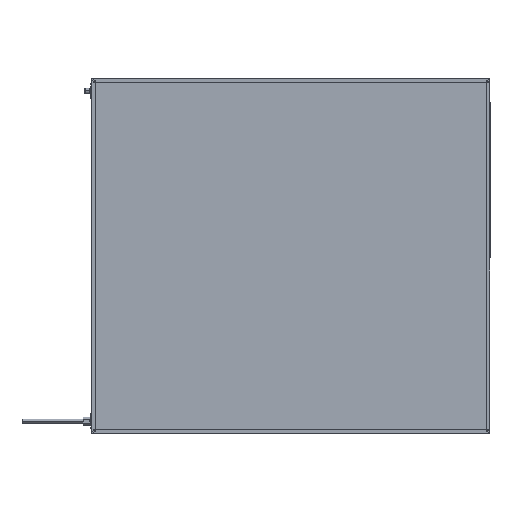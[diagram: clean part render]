
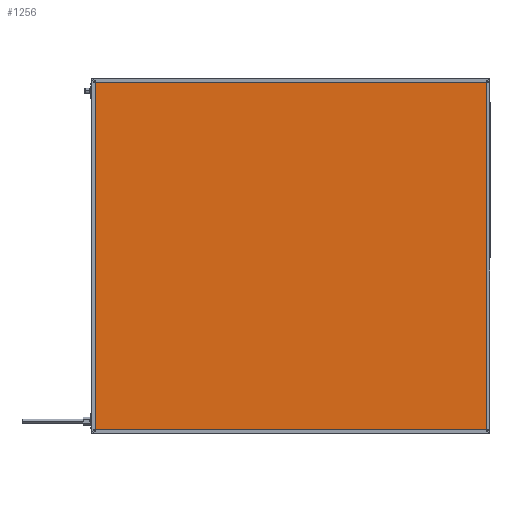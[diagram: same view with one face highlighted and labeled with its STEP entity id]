
A CAD part, top view. The second image highlights one B-rep face of the part: STEP entity #1256.
In plain terms, the highlighted planar face has unit normal (0, 0, 1).
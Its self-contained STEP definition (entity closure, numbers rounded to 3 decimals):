
#715 = VECTOR ( 'NONE', #13009, 1000. ) ;
#719 = EDGE_LOOP ( 'NONE', ( #13588, #3458, #17217, #11092 ) ) ;
#1256 = ADVANCED_FACE ( 'NONE', ( #15375 ), #5597, .F. ) ;
#2317 = CARTESIAN_POINT ( 'NONE',  ( 4., 4., 41.85 ) ) ;
#2881 = VERTEX_POINT ( 'NONE', #2317 ) ;
#3458 = ORIENTED_EDGE ( 'NONE', *, *, #8648, .T. ) ;
#3554 = VERTEX_POINT ( 'NONE', #4446 ) ;
#3938 = DIRECTION ( 'NONE',  ( 1., 0., 0. ) ) ;
#4146 = CARTESIAN_POINT ( 'NONE',  ( 0., 0., 41.85 ) ) ;
#4274 = DIRECTION ( 'NONE',  ( 0., -1., 0. ) ) ;
#4446 = CARTESIAN_POINT ( 'NONE',  ( 896., 4., 41.85 ) ) ;
#5511 = DIRECTION ( 'NONE',  ( 0., 0., -1. ) ) ;
#5597 = PLANE ( 'NONE',  #11540 ) ;
#7768 = CARTESIAN_POINT ( 'NONE',  ( 0., 4., 41.85 ) ) ;
#8648 = EDGE_CURVE ( 'NONE', #10076, #10321, #9694, .T. ) ;
#8796 = CARTESIAN_POINT ( 'NONE',  ( 896., 0., 41.85 ) ) ;
#9124 = EDGE_CURVE ( 'NONE', #10321, #2881, #16596, .T. ) ;
#9478 = EDGE_CURVE ( 'NONE', #3554, #10076, #14192, .T. ) ;
#9694 = LINE ( 'NONE', #15267, #10302 ) ;
#9786 = DIRECTION ( 'NONE',  ( -1., 0., 0. ) ) ;
#9851 = VECTOR ( 'NONE', #3938, 1000. ) ;
#10076 = VERTEX_POINT ( 'NONE', #13867 ) ;
#10302 = VECTOR ( 'NONE', #9786, 1000. ) ;
#10321 = VERTEX_POINT ( 'NONE', #17690 ) ;
#11092 = ORIENTED_EDGE ( 'NONE', *, *, #15592, .T. ) ;
#11540 = AXIS2_PLACEMENT_3D ( 'NONE', #4146, #5511, #14007 ) ;
#12257 = LINE ( 'NONE', #7768, #9851 ) ;
#13009 = DIRECTION ( 'NONE',  ( 0., 1., 0. ) ) ;
#13588 = ORIENTED_EDGE ( 'NONE', *, *, #9478, .T. ) ;
#13867 = CARTESIAN_POINT ( 'NONE',  ( 896., 796., 41.85 ) ) ;
#14007 = DIRECTION ( 'NONE',  ( -1., 0., 0. ) ) ;
#14192 = LINE ( 'NONE', #8796, #715 ) ;
#15267 = CARTESIAN_POINT ( 'NONE',  ( 0., 796., 41.85 ) ) ;
#15375 = FACE_OUTER_BOUND ( 'NONE', #719, .T. ) ;
#15592 = EDGE_CURVE ( 'NONE', #2881, #3554, #12257, .T. ) ;
#16596 = LINE ( 'NONE', #16776, #16703 ) ;
#16703 = VECTOR ( 'NONE', #4274, 1000. ) ;
#16776 = CARTESIAN_POINT ( 'NONE',  ( 4., 0., 41.85 ) ) ;
#17217 = ORIENTED_EDGE ( 'NONE', *, *, #9124, .T. ) ;
#17690 = CARTESIAN_POINT ( 'NONE',  ( 4., 796., 41.85 ) ) ;
